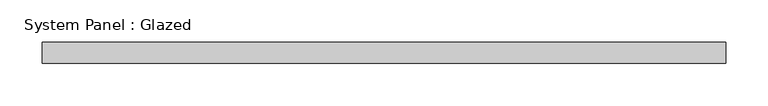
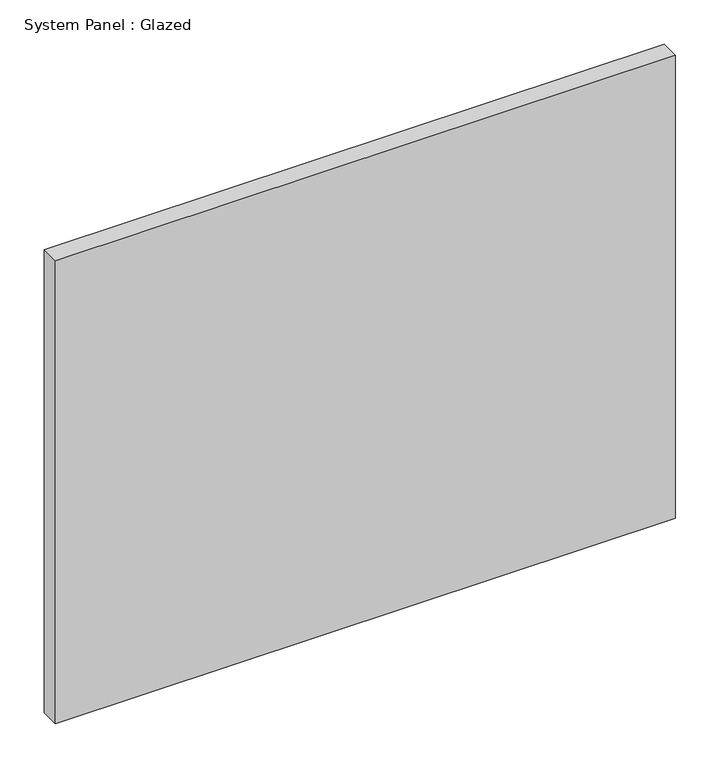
"""IFC4 building model written with IfcOpenShell, lengths in millimetres: plate geometry, System Panel : Glazed."""

from ifc_helpers import new_model, si_unit, origin, origin_with_axes, place, context, project, spatial, polyline, outline, extrude, source, transform, mapped, element, save


def system_panel_glazed_fababb9e(model_context):
    return source(origin(), model_context, "Body", "SweptSolid", [
        extrude(outline(polyline([(404.8828858, 24.5), (-404.8828858, 24.5), (-404.8828858, 49.5), (404.8828858, 49.5), (404.8828858, 24.5)])), origin_with_axes(), (0.0, 0.0, 1.0), 639.6468952),
    ])


if __name__ == "__main__":
    model = new_model("IFC4")
    model_context = context("Model", 3, world=origin())
    ifc_project = project(units=[si_unit("LENGTHUNIT", "METRE", prefix="MILLI")], contexts=[model_context])
    site = spatial("IfcSite", under=ifc_project)
    building = spatial("IfcBuilding", under=site)
    placement = place(None, origin())
    system_panel_glazed_shape = system_panel_glazed_fababb9e(model_context)
    element("IfcPlate", 1, ObjectType="System Panel : Glazed", at=placement, inside=building, context=model_context, shape_type="MappedRepresentation", body=[
        mapped(system_panel_glazed_shape, transform((0.0, 0.0, 0.0), x_axis=(1.0, 0.0, 0.0), y_axis=(0.0, 1.0, 0.0), z_axis=(0.0, 0.0, 1.0))),
    ])
    save(model, "model.ifc")
